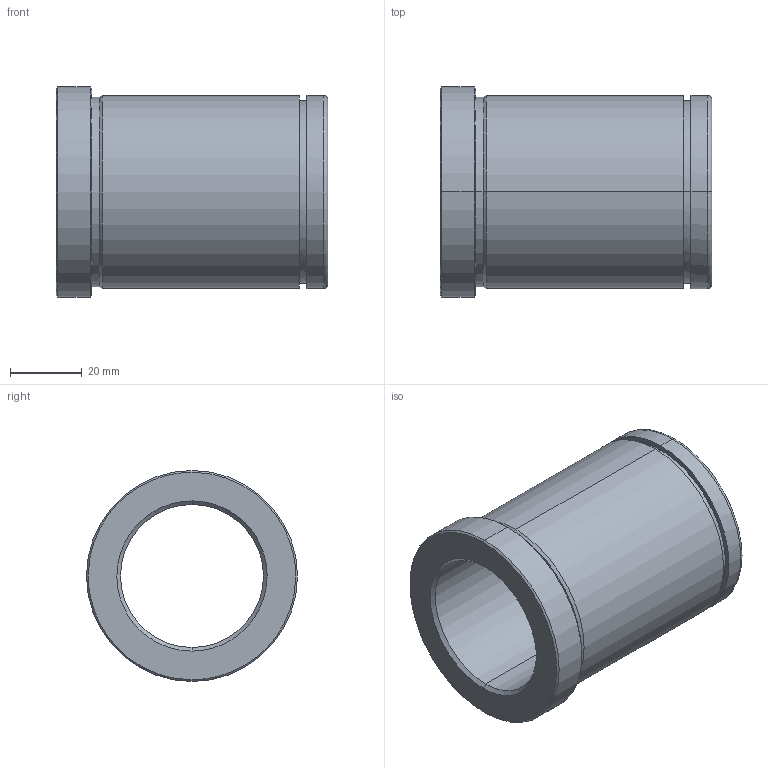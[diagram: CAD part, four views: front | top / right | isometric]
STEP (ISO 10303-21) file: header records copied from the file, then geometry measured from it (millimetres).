
FILE_DESCRIPTION(('CATIA V5 STEP Exchange'),'2;1');
FILE_NAME('C:\Users\Utente\Desktop\IO LAVORO\3D X SITO CF\X SITO\PLASTICA\553\553-40X76.stp','2021-06-03T18:28:57+00:00',('none'),('none'),'CATIA Version 5 Release 20 GA (IN-10)','CATIA V5 STEP AP203','none');
FILE_SCHEMA(('CONFIG_CONTROL_DESIGN'));
Length unit declared in the file: millimetre
Products named in the file (1): 553-40X76
Bounding box: 76 x 59 x 59 mm (x, y, z)
Volume: 81918.1 mm3; surface area: 25727.1 mm2
Topology: 1 solids, 1 shells, 29 faces, 92 edges, 68 vertices
Faces by surface type: cylinder 12, cone 8, plane 5, torus 4
Entity records: 1222 total; most frequent: CARTESIAN_POINT 368, ORIENTED_EDGE 184, DIRECTION 136, EDGE_CURVE 92, AXIS2_PLACEMENT_3D 88, VERTEX_POINT 68, CIRCLE 58, EDGE_LOOP 34
